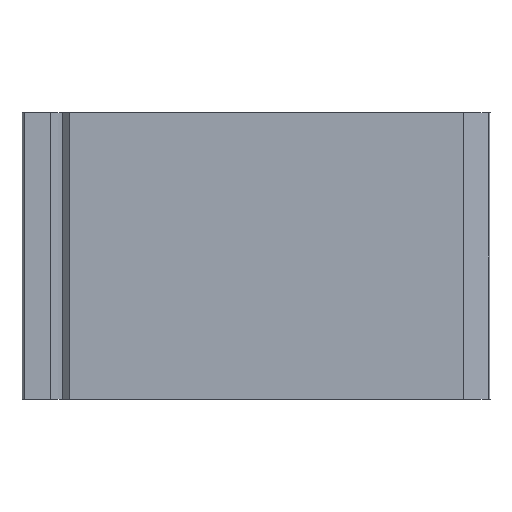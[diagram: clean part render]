
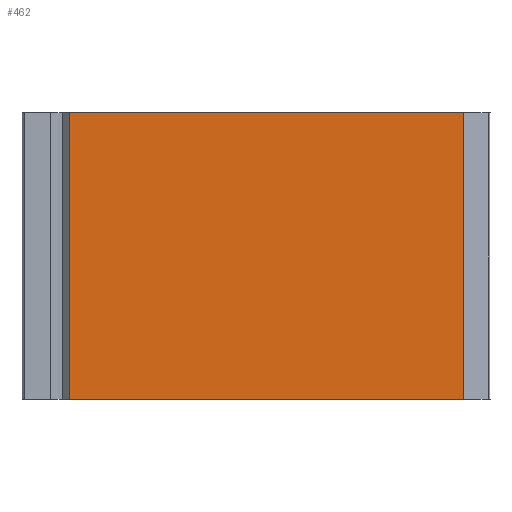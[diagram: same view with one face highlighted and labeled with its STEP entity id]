
A CAD part, left-side view. The second image highlights one B-rep face of the part: STEP entity #462.
In plain terms, the highlighted planar face has unit normal (-1, 0, 0).
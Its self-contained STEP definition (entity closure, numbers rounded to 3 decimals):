
#14 = ORIENTED_EDGE ( 'NONE', *, *, #250, .T. ) ;
#19 = EDGE_CURVE ( 'NONE', #330, #486, #88, .T. ) ;
#43 = VECTOR ( 'NONE', #444, 1000. ) ;
#44 = ORIENTED_EDGE ( 'NONE', *, *, #19, .T. ) ;
#68 = CARTESIAN_POINT ( 'NONE',  ( -10., 20., 120. ) ) ;
#69 = DIRECTION ( 'NONE',  ( 1., 0., 0. ) ) ;
#86 = AXIS2_PLACEMENT_3D ( 'NONE', #342, #69, #118 ) ;
#87 = EDGE_CURVE ( 'NONE', #327, #590, #415, .T. ) ;
#88 = LINE ( 'NONE', #597, #558 ) ;
#113 = CARTESIAN_POINT ( 'NONE',  ( -10., 20., 0. ) ) ;
#118 = DIRECTION ( 'NONE',  ( 0., 0., -1. ) ) ;
#159 = VECTOR ( 'NONE', #483, 1000. ) ;
#160 = LINE ( 'NONE', #113, #264 ) ;
#162 = CARTESIAN_POINT ( 'NONE',  ( -10., -144.829, 120. ) ) ;
#177 = CARTESIAN_POINT ( 'NONE',  ( -10., 20., 0. ) ) ;
#191 = CARTESIAN_POINT ( 'NONE',  ( -10., -144.829, 120. ) ) ;
#193 = DIRECTION ( 'NONE',  ( 0., 0., -1. ) ) ;
#199 = ORIENTED_EDGE ( 'NONE', *, *, #439, .F. ) ;
#211 = CARTESIAN_POINT ( 'NONE',  ( -10., 20., 120. ) ) ;
#215 = PLANE ( 'NONE',  #86 ) ;
#250 = EDGE_CURVE ( 'NONE', #486, #590, #160, .T. ) ;
#264 = VECTOR ( 'NONE', #387, 1000. ) ;
#280 = ORIENTED_EDGE ( 'NONE', *, *, #87, .F. ) ;
#327 = VERTEX_POINT ( 'NONE', #162 ) ;
#330 = VERTEX_POINT ( 'NONE', #211 ) ;
#335 = EDGE_LOOP ( 'NONE', ( #14, #280, #199, #44 ) ) ;
#342 = CARTESIAN_POINT ( 'NONE',  ( -10., 20., 120. ) ) ;
#346 = FACE_OUTER_BOUND ( 'NONE', #335, .T. ) ;
#355 = CARTESIAN_POINT ( 'NONE',  ( -10., -144.829, 0. ) ) ;
#369 = LINE ( 'NONE', #68, #43 ) ;
#387 = DIRECTION ( 'NONE',  ( 0., -1., 0. ) ) ;
#415 = LINE ( 'NONE', #191, #159 ) ;
#439 = EDGE_CURVE ( 'NONE', #330, #327, #369, .T. ) ;
#444 = DIRECTION ( 'NONE',  ( 0., -1., 0. ) ) ;
#462 = ADVANCED_FACE ( 'NONE', ( #346 ), #215, .F. ) ;
#483 = DIRECTION ( 'NONE',  ( 0., 0., -1. ) ) ;
#486 = VERTEX_POINT ( 'NONE', #177 ) ;
#558 = VECTOR ( 'NONE', #193, 1000. ) ;
#590 = VERTEX_POINT ( 'NONE', #355 ) ;
#597 = CARTESIAN_POINT ( 'NONE',  ( -10., 20., 120. ) ) ;
